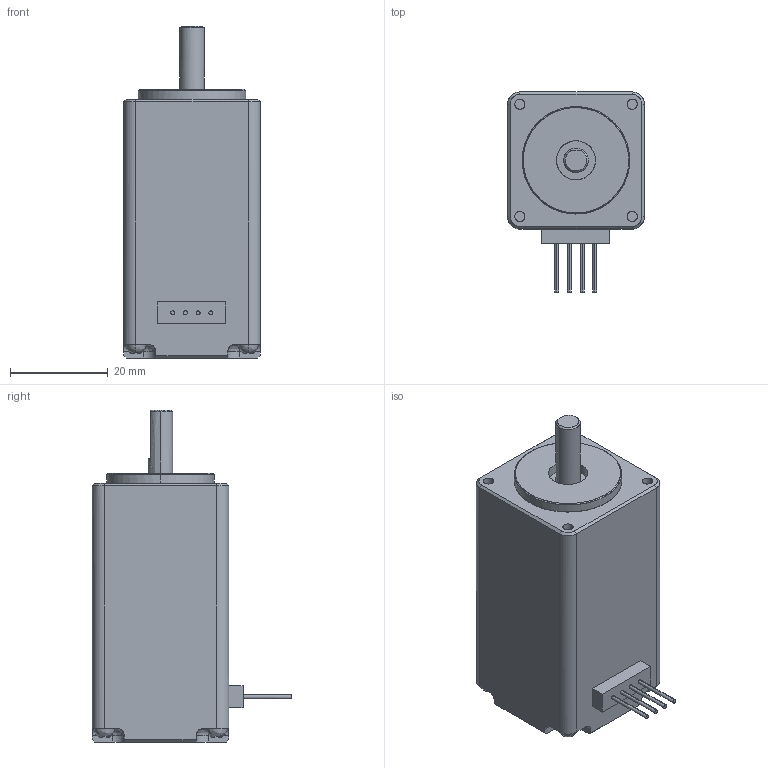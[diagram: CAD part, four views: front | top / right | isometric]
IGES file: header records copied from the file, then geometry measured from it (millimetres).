
Global section: file name: C:\DOCUME~1\PC001\BM-28L-ST.igs; preprocessor: I-DEAS 3D IGES Translator 12; date: 20100628.162027; units: millimetre
Bounding box: 28 x 40.9 x 68 mm (x, y, z)
Surface area: 7959.2 mm2 (no closed solid volume)
Topology: 0 solids, 0 shells, 170 faces, 922 edges, 922 vertices
Faces by surface type: bspline 170
